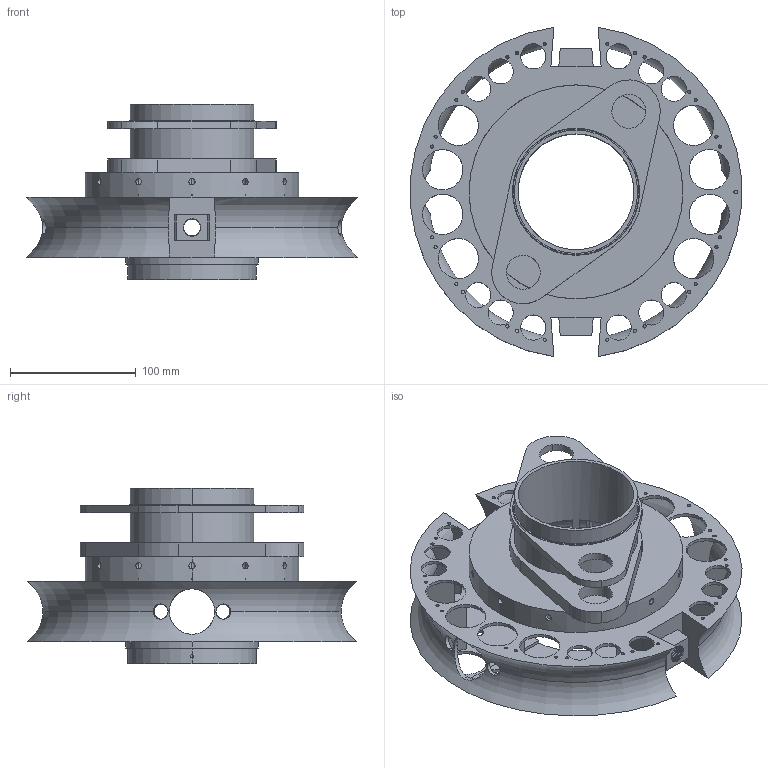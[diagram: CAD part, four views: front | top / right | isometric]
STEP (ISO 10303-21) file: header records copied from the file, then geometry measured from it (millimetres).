
FILE_DESCRIPTION(('STEP AP214'),'1');
FILE_NAME('C:/Users/mashimo/Documents/次世代エンジン/ボア６ｃｍ/TurboCAD/3D/tmp0.STEP','2025-07-11T09:15:17',(' '),(' '),'Spatial InterOp 3D',' ',' ');
FILE_SCHEMA(('automotive_design'));
Length unit declared in the file: millimetre
Products named in the file (1): 1
Bounding box: 263.06 x 261.65 x 139.5 mm (x, y, z)
Volume: 631276.5 mm3; surface area: 357260.3 mm2
Topology: 1 solids, 1 shells, 836 faces, 2324 edges, 1476 vertices
Faces by surface type: cylinder 508, plane 158, cone 136, torus 32, revolution 2
Entity records: 41708 total; most frequent: CARTESIAN_POINT 13163, ORIENTED_EDGE 4648, DIRECTION 4452, EDGE_CURVE 2324, AXIS2_PLACEMENT_3D 1769, VERTEX_POINT 1476, EDGE_LOOP 1124, LINE 912
